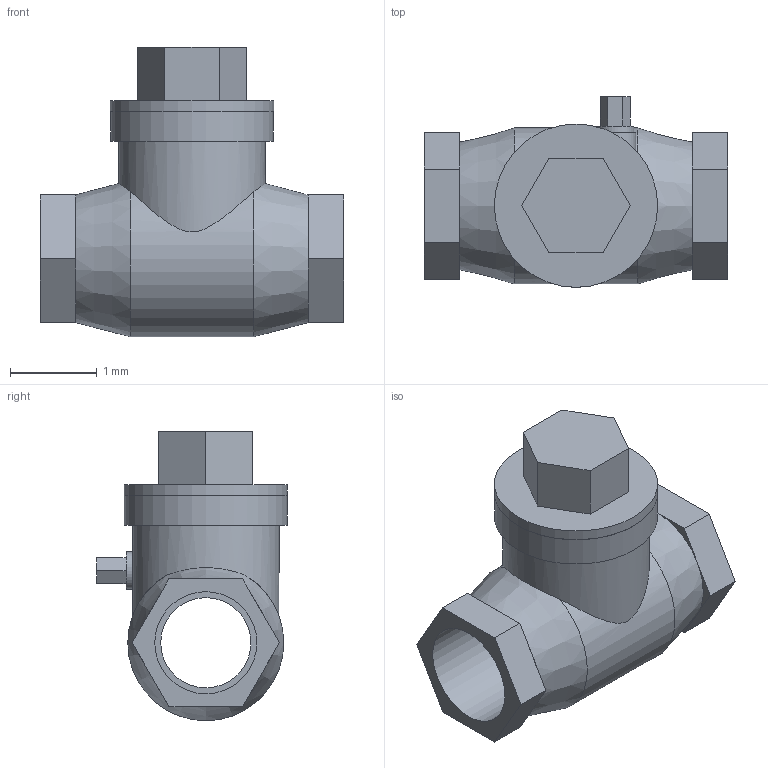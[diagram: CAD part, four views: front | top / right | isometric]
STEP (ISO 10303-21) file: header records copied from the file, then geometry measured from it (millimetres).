
FILE_DESCRIPTION(('Open CASCADE Model'),'2;1');
FILE_NAME('Open CASCADE Shape Model','2021-10-25T11:58:26',('Author'),( 'Open CASCADE'),'Open CASCADE STEP processor 7.3','Open CASCADE 7.3' ,'Unknown');
FILE_SCHEMA(('AUTOMOTIVE_DESIGN { 1 0 10303 214 1 1 1 1 }'));
Length unit declared in the file: millimetre
Products named in the file (1): Open CASCADE STEP translator 7.3 1
Bounding box: 3.5 x 2.2 x 3.34 mm (x, y, z)
Volume: 7.6 mm3; surface area: 43.9 mm2
Topology: 1 solids, 1 shells, 58 faces, 133 edges, 84 vertices
Faces by surface type: plane 47, cylinder 9, cone 2
Full cylindrical faces by diameter (mm): 0.43 x1, 0.475 x1, 1.04 x1, 1.178 x2, 1.69 x1, 1.88 x1, 1.884 x1
Entity records: 4089 total; most frequent: CARTESIAN_POINT 1401, DIRECTION 492, LINE 305, VECTOR 305, ORIENTED_EDGE 266, PCURVE 266, DEFINITIONAL_REPRESENTATION 266, EDGE_CURVE 133
